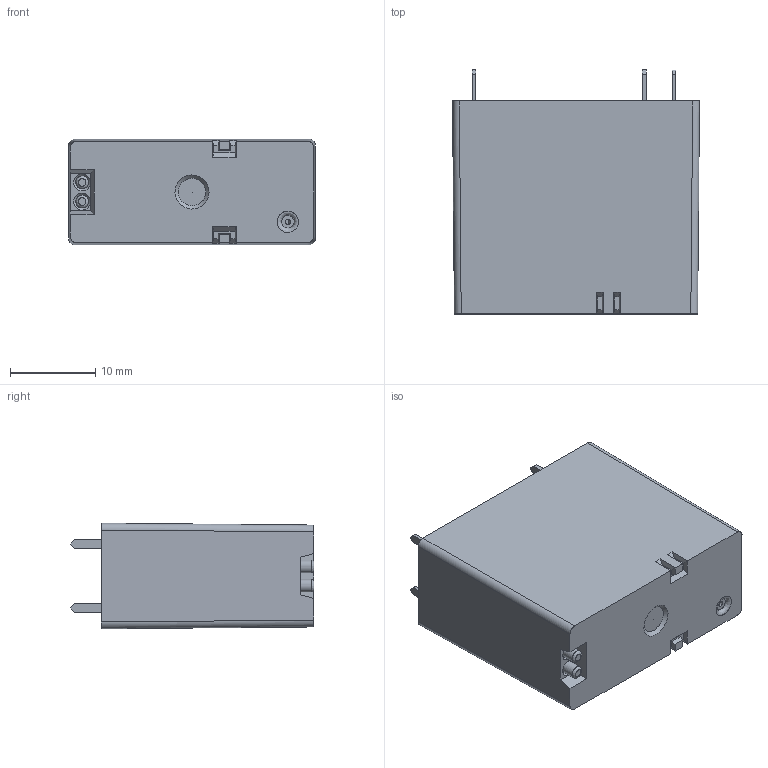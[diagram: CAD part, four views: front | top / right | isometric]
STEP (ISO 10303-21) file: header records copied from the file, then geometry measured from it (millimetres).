
FILE_DESCRIPTION(('STEP AP214'),'2;1');
FILE_NAME('40_31 o serie 42 complessivo 31 NO.stp','2011-08-30T15:38:26',(''),(''),'2007.1.106','THINKDESIGN','');
FILE_SCHEMA(('AUTOMOTIVE_DESIGN'));
Length unit declared in the file: millimetre
Products named in the file (1): None
Bounding box: 29 x 28.65 x 12.4 mm (x, y, z)
Surface area: 4570.2 mm2 (no closed solid volume)
Topology: 0 solids, 0 shells, 120 faces, 634 edges, 616 vertices
Faces by surface type: plane 93, bspline 20, cylinder 7
Full cylindrical faces by diameter (mm): 0.6 x1, 1.5 x2
Entity records: 7074 total; most frequent: CARTESIAN_POINT 2458, DIRECTION 744, COMPOSITE_CURVE_SEGMENT 633, VECTOR 532, LINE 532, TRIMMED_CURVE 532, OUTER_BOUNDARY_CURVE 120, CURVE_BOUNDED_SURFACE 120
